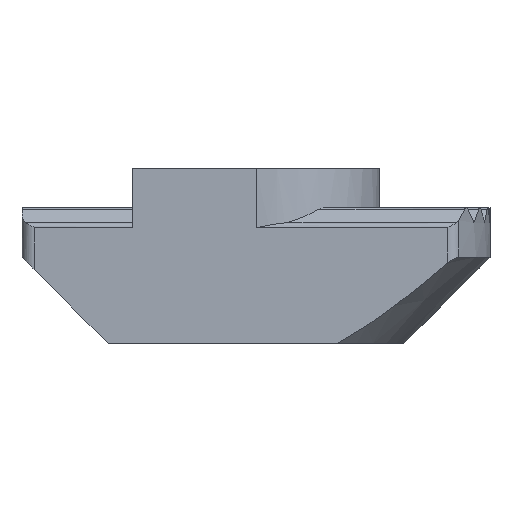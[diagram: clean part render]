
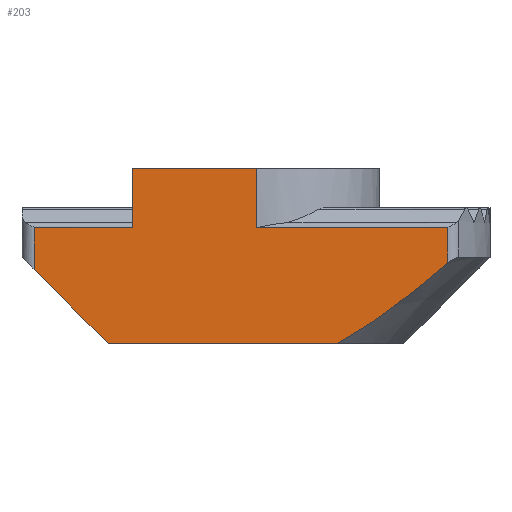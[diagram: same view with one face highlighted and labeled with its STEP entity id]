
A CAD part, front view. The second image highlights one B-rep face of the part: STEP entity #203.
In plain terms, the highlighted planar face has unit normal (0, -1, 0).
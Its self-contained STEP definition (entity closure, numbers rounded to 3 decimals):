
#203=ADVANCED_FACE('NONE',(#433),#434,.F.);
#433=FACE_OUTER_BOUND('',#689,.T.);
#434=PLANE('',#690);
#689=EDGE_LOOP('',(#1243,#1244,#1245,#1246,#1247,#1248,#1249,#1250,#1251,#1252));
#690=AXIS2_PLACEMENT_3D('',#1253,#1254,#1255);
#1243=ORIENTED_EDGE('',*,*,#1834,.T.);
#1244=ORIENTED_EDGE('',*,*,#1835,.T.);
#1245=ORIENTED_EDGE('',*,*,#1836,.T.);
#1246=ORIENTED_EDGE('',*,*,#1837,.T.);
#1247=ORIENTED_EDGE('',*,*,#1838,.T.);
#1248=ORIENTED_EDGE('',*,*,#1839,.T.);
#1249=ORIENTED_EDGE('',*,*,#1840,.T.);
#1250=ORIENTED_EDGE('',*,*,#1841,.T.);
#1251=ORIENTED_EDGE('',*,*,#1842,.F.);
#1252=ORIENTED_EDGE('',*,*,#1843,.F.);
#1253=CARTESIAN_POINT('',(-9.5,-5.0,5.59));
#1254=DIRECTION('',(0.0,1.0,0.0));
#1255=DIRECTION('',(1.0,0.0,-0.0));
#1834=EDGE_CURVE('NONE',#2297,#2298,#2299,.T.);
#1835=EDGE_CURVE('NONE',#2298,#2300,#2301,.T.);
#1836=EDGE_CURVE('NONE',#2300,#2302,#2303,.T.);
#1837=EDGE_CURVE('NONE',#2302,#2304,#2305,.T.);
#1838=EDGE_CURVE('NONE',#2304,#2306,#2307,.T.);
#1839=EDGE_CURVE('NONE',#2306,#2308,#2309,.T.);
#1840=EDGE_CURVE('NONE',#2308,#2310,#2311,.T.);
#1841=EDGE_CURVE('NONE',#2310,#2312,#2313,.T.);
#1842=EDGE_CURVE('NONE',#2314,#2312,#2315,.T.);
#1843=EDGE_CURVE('NONE',#2297,#2314,#2316,.T.);
#2297=VERTEX_POINT('NONE',#3302);
#2298=VERTEX_POINT('NONE',#3303);
#2299=LINE('',#3304,#3305);
#2300=VERTEX_POINT('NONE',#3306);
#2301=LINE('',#3307,#3308);
#2302=VERTEX_POINT('NONE',#3309);
#2303=LINE('',#3310,#3311);
#2304=VERTEX_POINT('NONE',#3312);
#2305=LINE('',#3313,#3314);
#2306=VERTEX_POINT('NONE',#3315);
#2307=LINE('',#3316,#3317);
#2308=VERTEX_POINT('NONE',#3318);
#2309=B_SPLINE_CURVE_WITH_KNOTS('',3,(#3319,#3320,#3321,#3322,#3323,#3324,#3325,#3326),.UNSPECIFIED.,.F.,.F.,(4,2,2,4),(0.,0.001,0.003,0.006),.UNSPECIFIED.);
#2310=VERTEX_POINT('NONE',#3327);
#2311=LINE('',#3328,#3329);
#2312=VERTEX_POINT('NONE',#3330);
#2313=LINE('',#3331,#3332);
#2314=VERTEX_POINT('NONE',#3333);
#2315=LINE('',#3334,#3335);
#2316=LINE('',#3336,#3337);
#3302=CARTESIAN_POINT('',(-5.0,-5.0,7.1));
#3303=CARTESIAN_POINT('',(-5.0,-5.0,4.699));
#3304=CARTESIAN_POINT('',(-5.0,-5.0,7.1));
#3305=VECTOR('',#3701,1000.0);
#3306=CARTESIAN_POINT('',(-9.0,-5.0,4.699));
#3307=CARTESIAN_POINT('',(-9.5,-5.0,4.699));
#3308=VECTOR('',#3702,1000.0);
#3309=CARTESIAN_POINT('',(-9.0,-5.0,3.));
#3310=CARTESIAN_POINT('',(-9.0,-5.0,5.59));
#3311=VECTOR('',#3703,1000.0);
#3312=CARTESIAN_POINT('',(-6.,-5.0,0.0));
#3313=CARTESIAN_POINT('',(-9.5,-5.0,3.5));
#3314=VECTOR('',#3704,1000.0);
#3315=CARTESIAN_POINT('',(3.317,-5.0,0.0));
#3316=CARTESIAN_POINT('',(-9.5,-5.0,0.0));
#3317=VECTOR('',#3705,1000.0);
#3318=CARTESIAN_POINT('',(7.794,-5.0,3.26));
#3319=CARTESIAN_POINT('',(3.317,-5.0,0.0));
#3320=CARTESIAN_POINT('',(3.724,-5.0,0.225));
#3321=CARTESIAN_POINT('',(4.117,-5.0,0.47));
#3322=CARTESIAN_POINT('',(4.885,-5.0,0.984));
#3323=CARTESIAN_POINT('',(5.26,-5.0,1.253));
#3324=CARTESIAN_POINT('',(6.369,-5.0,2.082));
#3325=CARTESIAN_POINT('',(7.086,-5.0,2.664));
#3326=CARTESIAN_POINT('',(7.794,-5.0,3.26));
#3327=CARTESIAN_POINT('',(7.794,-5.0,4.699));
#3328=CARTESIAN_POINT('',(7.794,-5.0,5.59));
#3329=VECTOR('',#3706,1000.0);
#3330=CARTESIAN_POINT('',(0.,-5.0,4.699));
#3331=CARTESIAN_POINT('',(-9.5,-5.0,4.699));
#3332=VECTOR('',#3707,1000.0);
#3333=CARTESIAN_POINT('',(0.,-5.0,7.1));
#3334=CARTESIAN_POINT('',(0.,-5.0,7.1));
#3335=VECTOR('',#3708,1000.0);
#3336=CARTESIAN_POINT('',(0.,-5.0,7.1));
#3337=VECTOR('',#3709,1000.0);
#3701=DIRECTION('',(-0.0,-0.0,-1.0));
#3702=DIRECTION('',(-1.0,-0.0,-0.0));
#3703=DIRECTION('',(0.0,0.0,-1.0));
#3704=DIRECTION('',(0.707,-0.0,-0.707));
#3705=DIRECTION('',(1.0,0.0,0.0));
#3706=DIRECTION('',(-0.0,-0.0,1.0));
#3707=DIRECTION('',(-1.0,-0.0,-0.0));
#3708=DIRECTION('',(-0.0,-0.0,-1.0));
#3709=DIRECTION('',(1.0,0.,-0.0));
